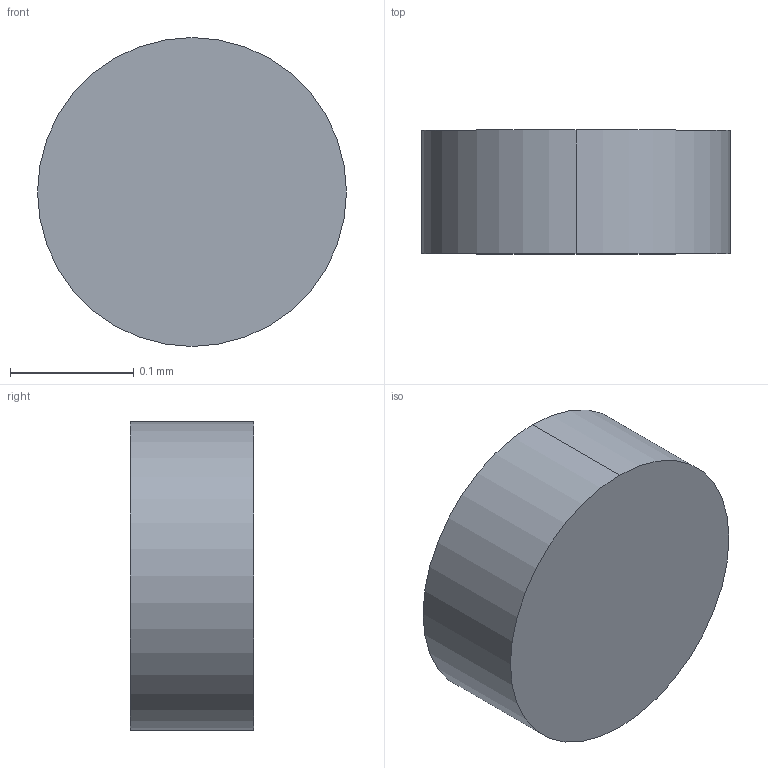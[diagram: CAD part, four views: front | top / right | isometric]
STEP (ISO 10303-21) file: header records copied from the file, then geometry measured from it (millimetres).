
FILE_DESCRIPTION(('FreeCAD Model'),'2;1');
FILE_NAME('Open CASCADE Shape Model','2026-04-29T20:08:27',(''),(''), 'Open CASCADE STEP processor 7.8','FreeCAD','Unknown');
FILE_SCHEMA(('AUTOMOTIVE_DESIGN { 1 0 10303 214 1 1 1 1 }'));
Length unit declared in the file: millimetre
Products named in the file (1): M1pin7
Bounding box: 0.25 x 0.1 x 0.25 mm (x, y, z)
Volume: 0 mm3; surface area: 0.2 mm2
Topology: 1 solids, 1 shells, 4 faces, 6 edges, 4 vertices
Faces by surface type: cylinder 2, plane 2
Entity records: 116 total; most frequent: DIRECTION 20, CARTESIAN_POINT 15, ORIENTED_EDGE 12, AXIS2_PLACEMENT_3D 9, EDGE_CURVE 6, ADVANCED_FACE 4, FACE_BOUND 4, EDGE_LOOP 4
